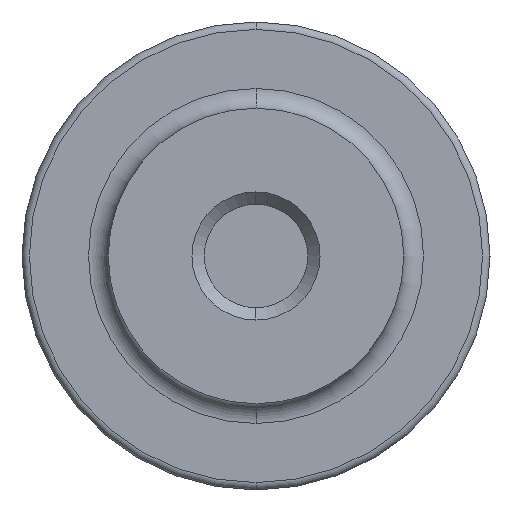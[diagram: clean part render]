
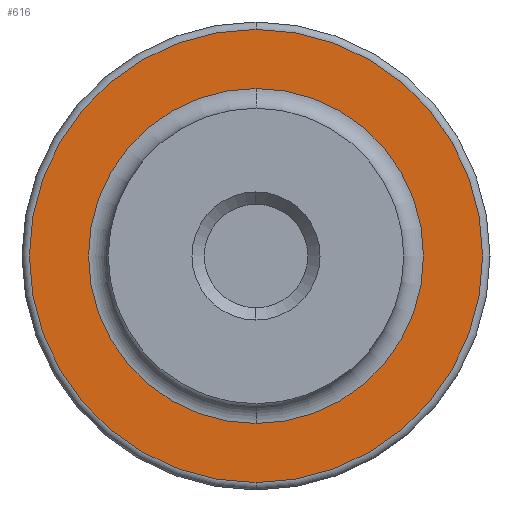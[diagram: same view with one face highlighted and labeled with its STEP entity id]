
A CAD part, left-side view. The second image highlights one B-rep face of the part: STEP entity #616.
In plain terms, the highlighted planar face has unit normal (-1, 0, 0).
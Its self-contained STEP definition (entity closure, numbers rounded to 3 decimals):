
#15 = VERTEX_POINT ( 'NONE', #279 ) ;
#18 = DIRECTION ( 'NONE',  ( 0., 0., 1. ) ) ;
#28 = EDGE_CURVE ( 'NONE', #83, #15, #450, .T. ) ;
#39 = CARTESIAN_POINT ( 'NONE',  ( -30.222, 18.031, 17.358 ) ) ;
#41 = DIRECTION ( 'NONE',  ( 0., 0., 1. ) ) ;
#81 = EDGE_LOOP ( 'NONE', ( #318, #369 ) ) ;
#83 = VERTEX_POINT ( 'NONE', #296 ) ;
#102 = AXIS2_PLACEMENT_3D ( 'NONE', #500, #565, #41 ) ;
#118 = AXIS2_PLACEMENT_3D ( 'NONE', #713, #432, #252 ) ;
#120 = VERTEX_POINT ( 'NONE', #359 ) ;
#162 = CIRCLE ( 'NONE', #118, 9.2 ) ;
#178 = DIRECTION ( 'NONE',  ( 0., 0., 1. ) ) ;
#201 = EDGE_CURVE ( 'NONE', #15, #83, #162, .T. ) ;
#203 = DIRECTION ( 'NONE',  ( 0., 0., 1. ) ) ;
#204 = DIRECTION ( 'NONE',  ( -1., 0., 0. ) ) ;
#234 = CARTESIAN_POINT ( 'NONE',  ( -30.222, 18.031, 10.558 ) ) ;
#252 = DIRECTION ( 'NONE',  ( 0., 0., 1. ) ) ;
#279 = CARTESIAN_POINT ( 'NONE',  ( -30.222, 18.031, 1.358 ) ) ;
#291 = ORIENTED_EDGE ( 'NONE', *, *, #388, .T. ) ;
#296 = CARTESIAN_POINT ( 'NONE',  ( -30.222, 18.031, 19.758 ) ) ;
#318 = ORIENTED_EDGE ( 'NONE', *, *, #28, .T. ) ;
#342 = DIRECTION ( 'NONE',  ( 1., 0., 0. ) ) ;
#343 = ORIENTED_EDGE ( 'NONE', *, *, #626, .T. ) ;
#359 = CARTESIAN_POINT ( 'NONE',  ( -30.222, 18.031, 3.758 ) ) ;
#365 = PLANE ( 'NONE',  #442 ) ;
#369 = ORIENTED_EDGE ( 'NONE', *, *, #201, .T. ) ;
#388 = EDGE_CURVE ( 'NONE', #663, #120, #717, .T. ) ;
#398 = CIRCLE ( 'NONE', #102, 6.8 ) ;
#412 = FACE_OUTER_BOUND ( 'NONE', #81, .T. ) ;
#432 = DIRECTION ( 'NONE',  ( -1., 0., 0. ) ) ;
#442 = AXIS2_PLACEMENT_3D ( 'NONE', #556, #204, #203 ) ;
#450 = CIRCLE ( 'NONE', #545, 9.2 ) ;
#458 = AXIS2_PLACEMENT_3D ( 'NONE', #586, #342, #178 ) ;
#500 = CARTESIAN_POINT ( 'NONE',  ( -30.222, 18.031, 10.558 ) ) ;
#545 = AXIS2_PLACEMENT_3D ( 'NONE', #234, #692, #18 ) ;
#556 = CARTESIAN_POINT ( 'NONE',  ( -30.222, -5.049, 10.558 ) ) ;
#565 = DIRECTION ( 'NONE',  ( 1., 0., 0. ) ) ;
#570 = EDGE_LOOP ( 'NONE', ( #291, #343 ) ) ;
#586 = CARTESIAN_POINT ( 'NONE',  ( -30.222, 18.031, 10.558 ) ) ;
#616 = ADVANCED_FACE ( 'NONE', ( #412, #706 ), #365, .T. ) ;
#626 = EDGE_CURVE ( 'NONE', #120, #663, #398, .T. ) ;
#663 = VERTEX_POINT ( 'NONE', #39 ) ;
#692 = DIRECTION ( 'NONE',  ( -1., 0., 0. ) ) ;
#706 = FACE_BOUND ( 'NONE', #570, .T. ) ;
#713 = CARTESIAN_POINT ( 'NONE',  ( -30.222, 18.031, 10.558 ) ) ;
#717 = CIRCLE ( 'NONE', #458, 6.8 ) ;
